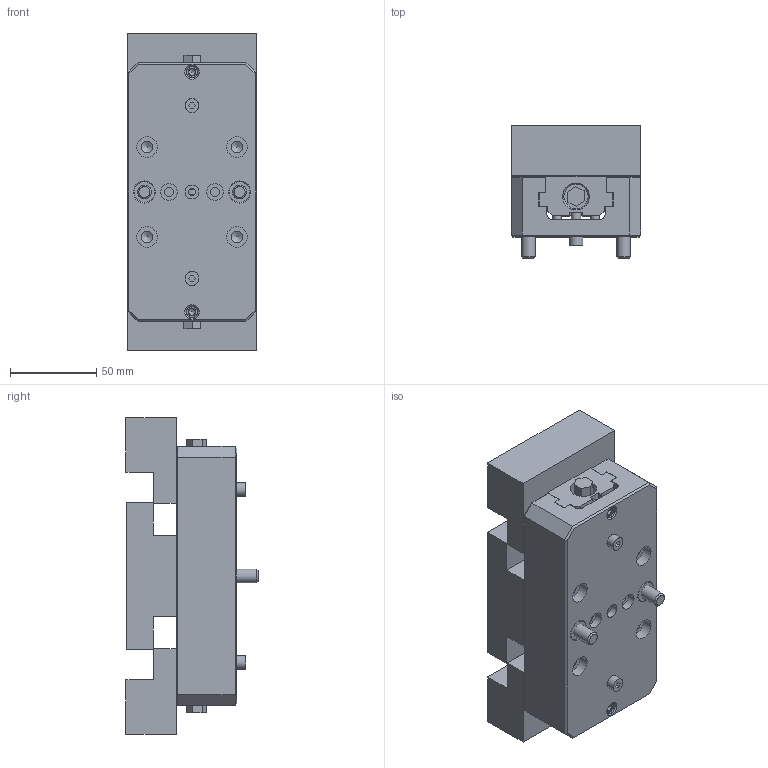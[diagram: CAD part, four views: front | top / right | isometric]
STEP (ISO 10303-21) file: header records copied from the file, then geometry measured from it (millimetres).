
FILE_DESCRIPTION (( 'STEP AP214' ), '1' );
FILE_NAME ('DV75150X-J2_WEBSITE.STEP', '2025-08-11T13:31:19', ( '' ), ( '' ), 'SwSTEP 2.0', 'SolidWorks 2025', '' );
FILE_SCHEMA (( 'AUTOMOTIVE_DESIGN' ));
Length unit declared in the file: inch
Products named in the file (20): LP8_WEBSITE_LP8; HW.76232_WEBSITE_91290A418; HW.76268_WEBSITE_91290A456; LC024B05M_WEBSITE_9657K267; HW.76256_WEBSITE_91290A446; VAJ-DV75150-M_WEBSITE_VAJ-DV75150-M; DV75150X^DV75150X-J2_WEBSITE; HW.0187.FP_WEBSITE; DV75150X-J2_WEBSITE; V75100X-2_WEBSITE_V75100X-2R OP2; DV75150X-MJ-A_WEBSITE; V75100X-2_WEBSITE_V75100X-2L OP2; DV75150X-HK^DV75150X_DV75150X-J2_WEBSITE; HW.450-8_WEBSITE; HW.M8X12.EPSS_WEBSITE_92775A312; M5x10.DP_WEBSITE_93600A511; HW.0625X0625.DB_WEBSITE; VAJ-DV75150-F_WEBSITE_VAJ-DV75150-F; V75150-4_WEBSITE; V75150X-1_WEBSITE_FINAL
Assembly tree (36 placements, depth 4):
  DV75150X-J2_WEBSITE
    DV75150X^DV75150X-J2_WEBSITE
      HW.M8X12.EPSS_WEBSITE_92775A312  x2
      HW.0187.FP_WEBSITE  x4
      LC024B05M_WEBSITE_9657K267  x4
      V75150X-1_WEBSITE_FINAL
      V75100X-2_WEBSITE_V75100X-2R OP2
      V75150-4_WEBSITE
      V75100X-2_WEBSITE_V75100X-2L OP2
      DV75150X-HK^DV75150X_DV75150X-J2_WEBSITE
        M5x10.DP_WEBSITE_93600A511  x2
        LP8_WEBSITE_LP8  x2
        HW.76232_WEBSITE_91290A418  x4
        HW.76256_WEBSITE_91290A446  x2
        HW.76268_WEBSITE_91290A456  x2
        HW.450-8_WEBSITE  x2
        HW.0625X0625.DB_WEBSITE  x2
    DV75150X-MJ-A_WEBSITE
      VAJ-DV75150-M_WEBSITE_VAJ-DV75150-M  x2
      VAJ-DV75150-F_WEBSITE_VAJ-DV75150-F
Bounding box: 75 x 76.38 x 183.06 mm (x, y, z)
Volume: 624254 mm3; surface area: 150500.9 mm2
Topology: 33 solids, 33 shells, 623 faces, 1331 edges, 823 vertices
Faces by surface type: plane 333, cylinder 126, cone 118, torus 34, bspline 12
Full cylindrical faces by diameter (mm): 3.454 x1, 4.2 x3, 4.763 x4, 4.915 x4, 5 x4, 5.013 x2, 5.017 x2, 5.024 x2, 5.5 x2, 6.8 x16, 8 x12, 8.014 x3, 8.271 x4, 9 x8, 9.5 x2, 9.652 x2, 10.2 x2, 12 x4, 12.009 x4, 12.5 x2, 12.6 x4, 13 x8, 13.9 x2, 14 x2, 15 x6, 15.494 x2, 15.913 x2, 15.926 x2, 15.941 x2, 17.018 x1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
Entity records: 15079 total; most frequent: CARTESIAN_POINT 3821, DIRECTION 1838, ORIENTED_EDGE 1406, AXIS2_PLACEMENT_3D 710, EDGE_CURVE 703, EDGE_LOOP 652, VERTEX_POINT 527, FACE_OUTER_BOUND 519
